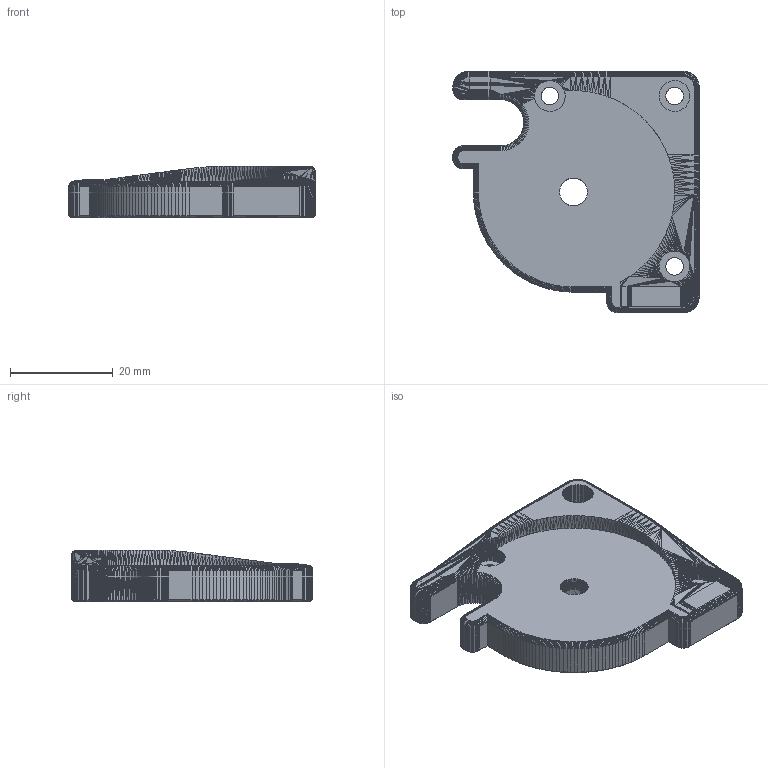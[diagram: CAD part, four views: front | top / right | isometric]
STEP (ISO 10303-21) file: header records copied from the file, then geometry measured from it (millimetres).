
FILE_DESCRIPTION(('Open CASCADE Model'),'2;1');
FILE_NAME('Open CASCADE Shape Model','2026-11-22T23:46:08',('Author'),( 'Open CASCADE'),'Open CASCADE STEP processor 8.0','Open CASCADE 8.0' ,'Unknown');
FILE_SCHEMA(('AUTOMOTIVE_DESIGN { 1 0 10303 214 1 1 1 1 }'));
Products named in the file (1): [a]_z_drive_baseplate_a_plus4mm_x2
Bounding box: 48 x 47 x 10 mm (x, y, z)
Volume: 13062.3 mm3; surface area: 5691.4 mm2
Topology: 1 solids, 1 shells, 8891 faces, 14428 edges, 5540 vertices
Faces by surface type: plane 8891
Entity records: 370804 total; most frequent: DIRECTION 61068, CARTESIAN_POINT 57716, LINE 43284, VECTOR 43284, ORIENTED_EDGE 28856, PCURVE 28856, DEFINITIONAL_REPRESENTATION 28856, EDGE_CURVE 14428
